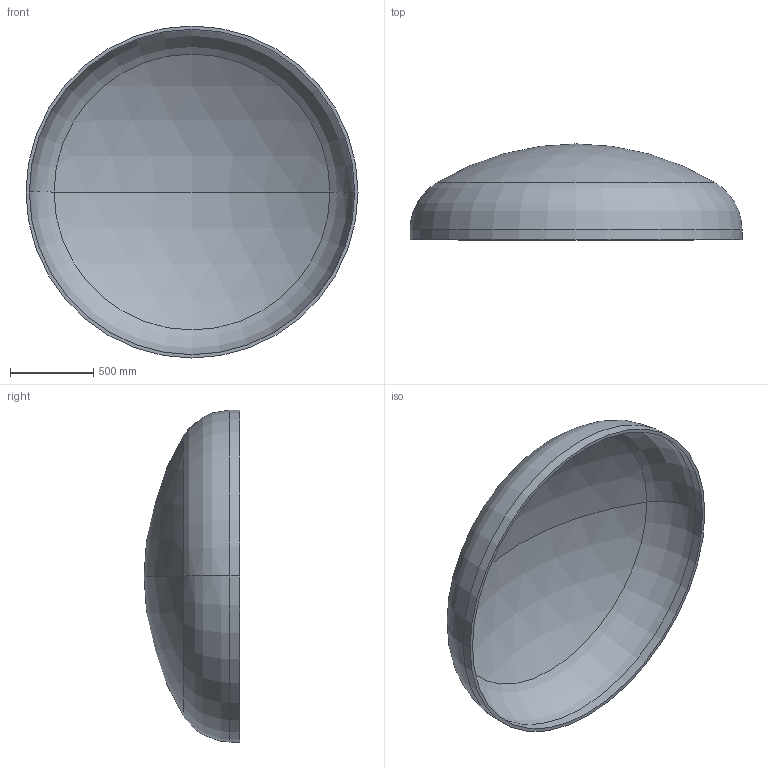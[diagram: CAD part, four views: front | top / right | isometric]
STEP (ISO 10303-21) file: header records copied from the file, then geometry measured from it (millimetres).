
FILE_DESCRIPTION (( 'STEP AP203' ), '1' );
FILE_NAME ('DIN 28013 Korbbogenform_-_Boden DIN 28013 - 2000 x 60 - I - s=20.step', '2016-07-01T13:41:13', ( '' ), ( '' ), 'SwSTEP 2.0', 'SolidWorks 2013', '' );
FILE_SCHEMA (( 'CONFIG_CONTROL_DESIGN' ));
Length unit declared in the file: millimetre
Products named in the file (1): DIN 28013 Korbbogenform_-_Boden DIN 28013 - 2000 x 60 - I - s=20
Bounding box: 2000 x 577.64 x 2000 mm (x, y, z)
Volume: 93451771 mm3; surface area: 9470418.5 mm2
Topology: 1 solids, 1 shells, 13 faces, 24 edges, 14 vertices
Faces by surface type: torus 4, cylinder 4, sphere 4, plane 1
Entity records: 407 total; most frequent: DIRECTION 72, CARTESIAN_POINT 52, ORIENTED_EDGE 48, AXIS2_PLACEMENT_3D 34, EDGE_CURVE 24, CIRCLE 20, EDGE_LOOP 14, VERTEX_POINT 14
